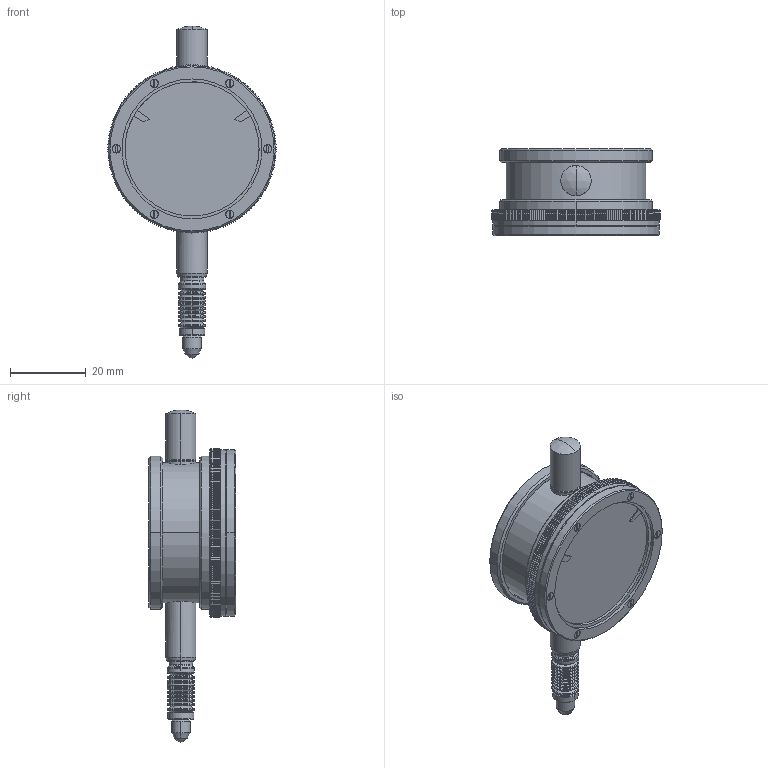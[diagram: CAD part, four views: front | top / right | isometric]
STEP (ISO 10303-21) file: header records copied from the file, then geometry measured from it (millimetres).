
FILE_DESCRIPTION(('STEP AP214'),'1');
FILE_NAME('KM500SW.STP','2016-12-01T09:56:33',(' '),(' '),'Spatial InterOp 3D',' ',' ');
FILE_SCHEMA(('automotive_design'));
Length unit declared in the file: millimetre
Products named in the file (4): 1; 2; 3; 4
Bounding box: 44.5 x 23.1 x 87.8 mm (x, y, z)
Volume: 10260.5 mm3; surface area: 15262.1 mm2
Topology: 4 solids, 13 shells, 1113 faces, 2918 edges, 1858 vertices
Faces by surface type: plane 595, cylinder 222, cone 194, torus 90, sphere 10, bspline 2
Entity records: 35290 total; most frequent: CARTESIAN_POINT 10115, ORIENTED_EDGE 5784, DIRECTION 5020, EDGE_CURVE 2892, AXIS2_PLACEMENT_3D 2011, VERTEX_POINT 1858, EDGE_LOOP 1184, ADVANCED_FACE 1113
